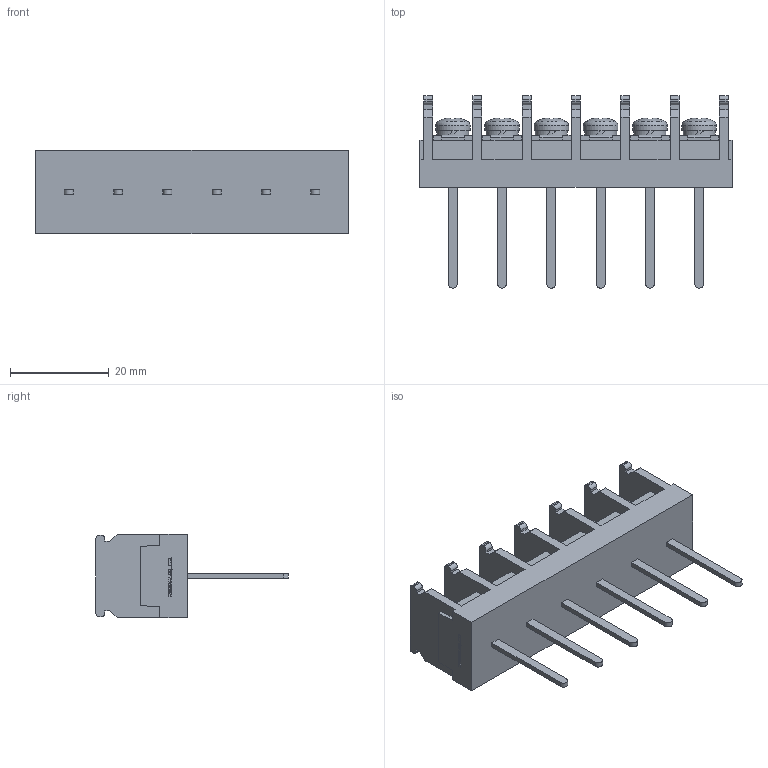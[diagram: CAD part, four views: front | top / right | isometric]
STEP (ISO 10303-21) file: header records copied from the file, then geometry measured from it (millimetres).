
FILE_DESCRIPTION(/* description */ ('Alibre Inc.'),/* implementation_level */ '2;1');
FILE_NAME(/* name */ 'export0',/* time_stamp */ '2015-10-17T17:15:09+09:00',/* author */ (''),/* organization */ (''),/* preprocessor_version */ 'ST-DEVELOPER v14',/* originating_system */ 'Alibre',/* authorisation */ '');
FILE_SCHEMA (('CONFIG_CONTROL_DESIGN'));
Length unit declared in the file: centimetre
Products named in the file (1): ID_1
Bounding box: 63.4 x 39 x 17 mm (x, y, z)
Volume: 12325.3 mm3; surface area: 7781.9 mm2
Topology: 1 solids, 17 shells, 810 faces, 2196 edges, 1458 vertices
Faces by surface type: plane 600, bspline 104, cylinder 64, cone 24, torus 12, sphere 6
Full cylindrical faces by diameter (mm): 4 x6, 6.5 x6, 7 x6
Entity records: 24689 total; most frequent: CARTESIAN_POINT 5526, ORIENTED_EDGE 4308, DIRECTION 3010, EDGE_CURVE 2154, VECTOR 1594, LINE 1594, VERTEX_POINT 1440, AXIS2_PLACEMENT_3D 1004
